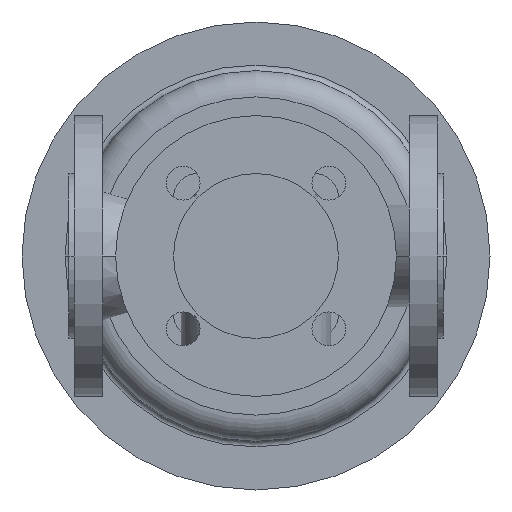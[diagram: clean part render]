
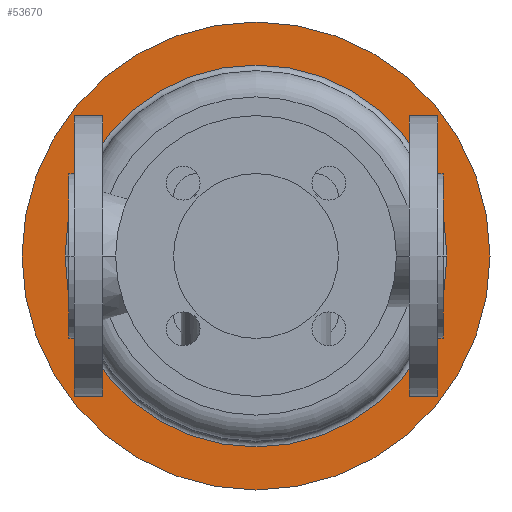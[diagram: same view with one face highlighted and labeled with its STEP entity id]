
A CAD part, front view. The second image highlights one B-rep face of the part: STEP entity #53670.
In plain terms, the highlighted planar face has unit normal (0, -1, 0).
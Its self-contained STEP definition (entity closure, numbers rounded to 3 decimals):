
#39760=CARTESIAN_POINT('',(225.,418.5,0.));
#39770=VERTEX_POINT('',#39760);
#39930=CARTESIAN_POINT('',(-25.,418.5,0.));
#39940=VERTEX_POINT('',#39930);
#39970=CARTESIAN_POINT('',(100.,418.5,0.));
#39980=DIRECTION('',(0.,1.,0.));
#39990=DIRECTION('',(1.,0.,0.));
#40000=AXIS2_PLACEMENT_3D('',#39970,#39980,#39990);
#40010=CIRCLE('',#40000,125.);
#40020=EDGE_CURVE('',#39770,#39940,#40010,.T.);
#40120=CARTESIAN_POINT('',(100.,418.5,0.));
#40130=DIRECTION('',(0.,1.,0.));
#40140=DIRECTION('',(1.,0.,0.));
#40150=AXIS2_PLACEMENT_3D('',#40120,#40130,#40140);
#40160=CIRCLE('',#40150,102.);
#40170=CARTESIAN_POINT('',(100.,418.5,102.));
#40180=VERTEX_POINT('',#40170);
#40190=CARTESIAN_POINT('',(202.,418.5,0.));
#40200=VERTEX_POINT('',#40190);
#40210=EDGE_CURVE('',#40180,#40200,#40160,.T.);
#40460=CARTESIAN_POINT('',(-2.,418.5,0.));
#40470=VERTEX_POINT('',#40460);
#40500=EDGE_CURVE('',#40470,#40180,#40160,.T.);
#53510=CARTESIAN_POINT('',(213.5,418.5,0.));
#53520=DIRECTION('',(0.,-1.,0.));
#53530=DIRECTION('',(-1.,0.,0.));
#53540=AXIS2_PLACEMENT_3D('',#53510,#53520,#53530);
#53550=PLANE('',#53540);
#53560=EDGE_CURVE('',#39940,#39770,#40010,.T.);
#53570=ORIENTED_EDGE('',*,*,#53560,.F.);
#53580=ORIENTED_EDGE('',*,*,#40020,.F.);
#53590=EDGE_LOOP('',(#53580,#53570));
#53600=FACE_OUTER_BOUND('',#53590,.T.);
#53610=EDGE_CURVE('',#40200,#40470,#40160,.T.);
#53620=ORIENTED_EDGE('',*,*,#53610,.T.);
#53630=ORIENTED_EDGE('',*,*,#40210,.T.);
#53640=ORIENTED_EDGE('',*,*,#40500,.T.);
#53650=EDGE_LOOP('',(#53640,#53630,#53620));
#53660=FACE_BOUND('',#53650,.T.);
#53670=ADVANCED_FACE('',(#53600,#53660),#53550,.T.);
